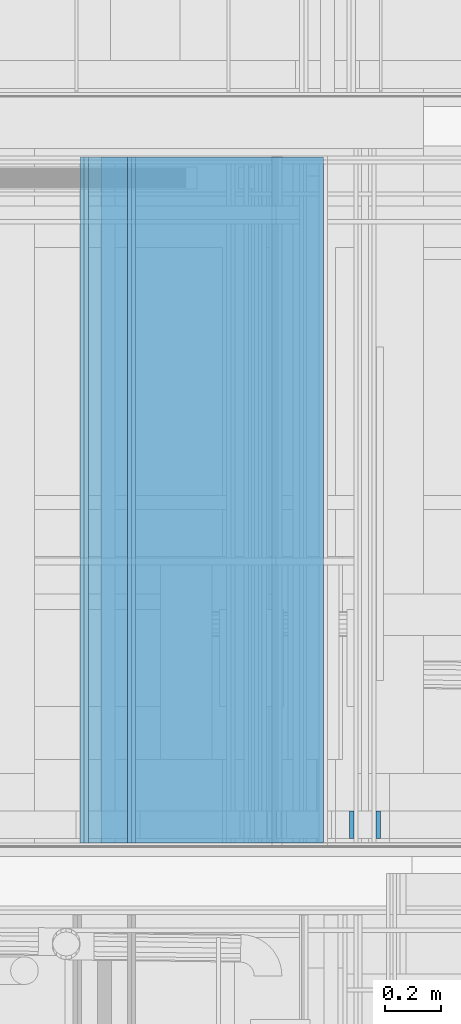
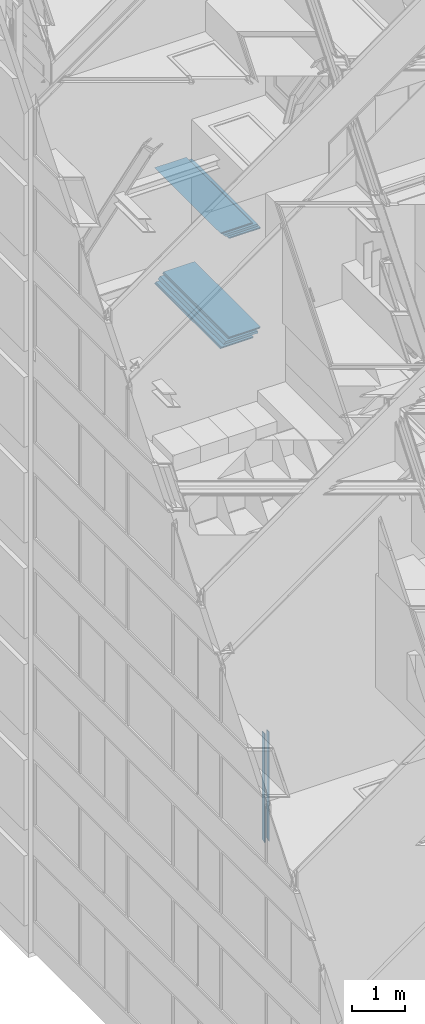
# One storey, part 141 of 583: 12 building element parts, 3 elements without a shape of their own.
"""IFC2X3 building model written with IfcOpenShell, lengths in metres."""

from ifc_helpers import new_model, entity, si_unit, converted_unit, derived_unit, money_unit, direction, frame, frame_2d, origin_with_axes, place, context, subcontext, project, spatial, polyline, rectangle, outline, extrude, clip, halfspace, material, type_object, element, aggregate, save


model = new_model("IFC2X3")

# Units and contexts
model_context = context("Model", 3, precision=1e-05, world=origin_with_axes(), true_north=direction((0.0, 1.0)))
body_context = subcontext(model_context, "Body", "Model", "MODEL_VIEW", scale=1.0)
ifc_project = project(units=[si_unit("LENGTHUNIT", "METRE"), si_unit("AREAUNIT", "SQUARE_METRE"), si_unit("VOLUMEUNIT", "CUBIC_METRE"), si_unit("ABSORBEDDOSEUNIT", "GRAY"), si_unit("AMOUNTOFSUBSTANCEUNIT", "MOLE"), si_unit("DOSEEQUIVALENTUNIT", "SIEVERT"), si_unit("ELECTRICCAPACITANCEUNIT", "FARAD"), si_unit("ELECTRICCHARGEUNIT", "COULOMB"), si_unit("ELECTRICCONDUCTANCEUNIT", "SIEMENS"), si_unit("ELECTRICCURRENTUNIT", "AMPERE"), si_unit("ELECTRICRESISTANCEUNIT", "OHM"), si_unit("ELECTRICVOLTAGEUNIT", "VOLT"), si_unit("ENERGYUNIT", "JOULE"), si_unit("FORCEUNIT", "NEWTON"), si_unit("FREQUENCYUNIT", "HERTZ"), si_unit("ILLUMINANCEUNIT", "LUX"), si_unit("INDUCTANCEUNIT", "HENRY"), si_unit("LUMINOUSFLUXUNIT", "LUMEN"), si_unit("LUMINOUSINTENSITYUNIT", "CANDELA"), si_unit("MAGNETICFLUXDENSITYUNIT", "TESLA"), si_unit("MAGNETICFLUXUNIT", "WEBER"), si_unit("MASSUNIT", "GRAM"), converted_unit("PLANEANGLEUNIT", "degree", entity("IfcReal", 0.0174532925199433), si_unit("PLANEANGLEUNIT", "RADIAN"), dimensions=[0, 0, 0, 0, 0, 0, 0]), si_unit("POWERUNIT", "WATT"), si_unit("PRESSUREUNIT", "PASCAL"), si_unit("RADIOACTIVITYUNIT", "BECQUEREL"), si_unit("SOLIDANGLEUNIT", "STERADIAN"), si_unit("THERMODYNAMICTEMPERATUREUNIT", "KELVIN"), si_unit("TIMEUNIT", "SECOND"), derived_unit("ACCELERATIONUNIT", [(si_unit("LENGTHUNIT", "METRE"), 1), (si_unit("TIMEUNIT", "SECOND"), -2)]), derived_unit("ANGULARVELOCITYUNIT", [(converted_unit("PLANEANGLEUNIT", "degree", entity("IfcReal", 0.0174532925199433), si_unit("PLANEANGLEUNIT", "RADIAN"), dimensions=[0, 0, 0, 0, 0, 0, 0]), 1), (si_unit("TIMEUNIT", "SECOND"), -1)]), derived_unit("CURVATUREUNIT", [(converted_unit("PLANEANGLEUNIT", "degree", entity("IfcReal", 0.0174532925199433), si_unit("PLANEANGLEUNIT", "RADIAN"), dimensions=[0, 0, 0, 0, 0, 0, 0]), 1), (si_unit("LENGTHUNIT", "METRE"), -1)]), derived_unit("DYNAMICVISCOSITYUNIT", [(si_unit("PRESSUREUNIT", "PASCAL"), 1), (si_unit("TIMEUNIT", "SECOND"), 1)]), derived_unit("HEATFLUXDENSITYUNIT", [(si_unit("POWERUNIT", "WATT"), 1), (si_unit("LENGTHUNIT", "METRE"), -2)]), derived_unit("HEATINGVALUEUNIT", [(si_unit("ENERGYUNIT", "JOULE"), 1), (si_unit("MASSUNIT", "GRAM"), -1)]), derived_unit("INTEGERCOUNTRATEUNIT", [(si_unit("TIMEUNIT", "SECOND"), -1)]), derived_unit("IONCONCENTRATIONUNIT", [(si_unit("MASSUNIT", "GRAM"), 1), (si_unit("VOLUMEUNIT", "CUBIC_METRE"), -1)]), derived_unit("ISOTHERMALMOISTURECAPACITYUNIT", [(si_unit("VOLUMEUNIT", "CUBIC_METRE"), 1), (si_unit("MASSUNIT", "GRAM"), -1)]), derived_unit("KINEMATICVISCOSITYUNIT", [(si_unit("AREAUNIT", "SQUARE_METRE"), 1), (si_unit("TIMEUNIT", "SECOND"), -1)]), derived_unit("LINEARFORCEUNIT", [(si_unit("FORCEUNIT", "NEWTON"), 1), (si_unit("LENGTHUNIT", "METRE"), -1)]), derived_unit("LINEARMOMENTUNIT", [(si_unit("FORCEUNIT", "NEWTON"), 1), (si_unit("LENGTHUNIT", "METRE"), -1)]), derived_unit("LINEARSTIFFNESSUNIT", [(si_unit("FORCEUNIT", "NEWTON"), 1), (si_unit("LENGTHUNIT", "METRE"), -1)]), derived_unit("LINEARVELOCITYUNIT", [(si_unit("LENGTHUNIT", "METRE"), 1), (si_unit("TIMEUNIT", "SECOND"), -1)]), derived_unit("LUMINOUSINTENSITYDISTRIBUTIONUNIT", [(si_unit("LUMINOUSINTENSITYUNIT", "CANDELA"), 1), (si_unit("LUMINOUSFLUXUNIT", "LUMEN"), -1)]), derived_unit("MASSDENSITYUNIT", [(si_unit("MASSUNIT", "GRAM"), 1), (si_unit("VOLUMEUNIT", "CUBIC_METRE"), -1)]), derived_unit("MASSFLOWRATEUNIT", [(si_unit("MASSUNIT", "GRAM"), 1), (si_unit("TIMEUNIT", "SECOND"), -1)]), derived_unit("MASSPERLENGTHUNIT", [(si_unit("MASSUNIT", "GRAM"), 1), (si_unit("LENGTHUNIT", "METRE"), -1)]), derived_unit("MODULUSOFELASTICITYUNIT", [(si_unit("FORCEUNIT", "NEWTON"), 1), (si_unit("AREAUNIT", "SQUARE_METRE"), -1)]), derived_unit("MODULUSOFLINEARSUBGRADEREACTIONUNIT", [(si_unit("FORCEUNIT", "NEWTON"), 1), (si_unit("LENGTHUNIT", "METRE"), -2)]), derived_unit("MODULUSOFROTATIONALSUBGRADEREACTIONUNIT", [(si_unit("FORCEUNIT", "NEWTON"), 1), (si_unit("LENGTHUNIT", "METRE"), 1)]), derived_unit("MODULUSOFSUBGRADEREACTIONUNIT", [(si_unit("FORCEUNIT", "NEWTON"), 1), (si_unit("VOLUMEUNIT", "CUBIC_METRE"), -1)]), derived_unit("MOISTUREDIFFUSIVITYUNIT", [(si_unit("VOLUMEUNIT", "CUBIC_METRE"), 1), (si_unit("TIMEUNIT", "SECOND"), -1)]), derived_unit("MOLECULARWEIGHTUNIT", [(si_unit("MASSUNIT", "GRAM"), 1), (si_unit("AMOUNTOFSUBSTANCEUNIT", "MOLE"), -1)]), derived_unit("PLANARFORCEUNIT", [(si_unit("FORCEUNIT", "NEWTON"), 1), (si_unit("LENGTHUNIT", "METRE"), -2)]), derived_unit("ROTATIONALFREQUENCYUNIT", [(si_unit("TIMEUNIT", "SECOND"), -1)]), derived_unit("ROTATIONALMASSUNIT", [(si_unit("MASSUNIT", "GRAM"), 1), (si_unit("LENGTHUNIT", "METRE"), 2)]), derived_unit("ROTATIONALSTIFFNESSUNIT", [(si_unit("FORCEUNIT", "NEWTON"), 1), (si_unit("LENGTHUNIT", "METRE"), 1), (converted_unit("PLANEANGLEUNIT", "degree", entity("IfcReal", 0.0174532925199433), si_unit("PLANEANGLEUNIT", "RADIAN"), dimensions=[0, 0, 0, 0, 0, 0, 0]), -1)]), derived_unit("SECTIONAREAINTEGRALUNIT", [(si_unit("LENGTHUNIT", "METRE"), 5)]), derived_unit("SECTIONMODULUSUNIT", [(si_unit("LENGTHUNIT", "METRE"), 3)]), derived_unit("SHEARMODULUSUNIT", [(si_unit("FORCEUNIT", "NEWTON"), 1), (si_unit("AREAUNIT", "SQUARE_METRE"), -1)]), derived_unit("SOUNDPOWERUNIT", [(si_unit("ENERGYUNIT", "JOULE"), 1), (si_unit("TIMEUNIT", "SECOND"), -1)]), derived_unit("SPECIFICHEATCAPACITYUNIT", [(si_unit("FORCEUNIT", "NEWTON"), 1), (si_unit("MASSUNIT", "GRAM"), -1), (si_unit("THERMODYNAMICTEMPERATUREUNIT", "KELVIN"), -1)]), derived_unit("TEMPERATUREGRADIENTUNIT", [(si_unit("THERMODYNAMICTEMPERATUREUNIT", "KELVIN"), 1), (si_unit("LENGTHUNIT", "METRE"), -1)]), derived_unit("THERMALADMITTANCEUNIT", [(si_unit("POWERUNIT", "WATT"), 1), (si_unit("AREAUNIT", "SQUARE_METRE"), -1), (si_unit("THERMODYNAMICTEMPERATUREUNIT", "KELVIN"), -1)]), derived_unit("THERMALCONDUCTANCEUNIT", [(si_unit("POWERUNIT", "WATT"), 1), (si_unit("LENGTHUNIT", "METRE"), -1), (si_unit("THERMODYNAMICTEMPERATUREUNIT", "KELVIN"), -1)]), derived_unit("THERMALEXPANSIONCOEFFICIENTUNIT", [(si_unit("THERMODYNAMICTEMPERATUREUNIT", "KELVIN"), -1)]), derived_unit("THERMALRESISTANCEUNIT", [(si_unit("AREAUNIT", "SQUARE_METRE"), 1), (si_unit("POWERUNIT", "WATT"), -1)]), derived_unit("THERMALTRANSMITTANCEUNIT", [(si_unit("POWERUNIT", "WATT"), 1), (si_unit("AREAUNIT", "SQUARE_METRE"), -1), (si_unit("THERMODYNAMICTEMPERATUREUNIT", "KELVIN"), -1)]), derived_unit("TORQUEUNIT", [(si_unit("FORCEUNIT", "NEWTON"), 1), (si_unit("LENGTHUNIT", "METRE"), 1)]), derived_unit("VAPORPERMEABILITYUNIT", [(si_unit("MASSUNIT", "GRAM"), 1), (si_unit("TIMEUNIT", "SECOND"), -1)]), derived_unit("VOLUMETRICFLOWRATEUNIT", [(si_unit("VOLUMEUNIT", "CUBIC_METRE"), 1), (si_unit("TIMEUNIT", "SECOND"), -1)]), derived_unit("WARPINGCONSTANTUNIT", [(si_unit("LENGTHUNIT", "METRE"), 6)]), derived_unit("WARPINGMOMENTUNIT", [(si_unit("FORCEUNIT", "NEWTON"), 1), (si_unit("LENGTHUNIT", "METRE"), 2)]), money_unit("GBP")], contexts=[model_context])

# Site, building, storey
site_placement = place(None, origin_with_axes())
site = spatial("IfcSite", under=ifc_project, at=site_placement, Name="Site", CompositionType="ELEMENT")
building_placement = place(site_placement, origin_with_axes())
building = spatial("IfcBuilding", under=site, at=building_placement, Name="Building01", CompositionType="ELEMENT")
storey_placement = place(building_placement, frame((0.0, 0.0, 20.78), z_axis=(0.0, 0.0, 1.0), x_axis=(1.0, 0.0, 0.0)))
storey = spatial("IfcBuildingStorey", under=building, at=storey_placement, Name="RL", CompositionType="ELEMENT", Elevation=20.78)

# Wall, building element parts
wall_type_1 = type_object("IfcWallType", Name="SHE_A-Walls_Type01d_Partywall_200mm_twin", PredefinedType="NOTDEFINED")
wall_1_placement = place(storey_placement, frame((5.005, 14.98, -8.53), z_axis=(0.0, 1.0, 0.0), x_axis=(-1.0, 0.0, 0.0)))
wall_1 = element("IfcWall", 1, at=wall_1_placement, inside=storey, type_object=wall_type_1, Name="1D", ObjectType="SHE_A-Walls_Type01d_Partywall_200mm_twin")
ifc_material_1 = material(Name="A_BSUK_Insulation")
placement_1 = place(wall_1_placement, origin_with_axes())
building_element_part_1 = element("IfcBuildingElementPart", 2, at=placement_1, material=ifc_material_1, Name="1", context=body_context, shape_type="SweptSolid", body=[
    extrude(outline(polyline([(0.690572, 0.05), (0.0, 0.05), (0.0, 0.0), (0.740572, 0.0), (0.690572, 0.05)])), origin_with_axes(), (0.0, 0.0, 1.0), 2.468),
])
ifc_material_2 = material(Name="A_BSUK_WallInternal_Finishes_Plasterboard")
building_element_part_2 = element("IfcBuildingElementPart", 3, at=placement_1, material=ifc_material_2, Name="3", context=body_context, shape_type="SweptSolid", body=[
    extrude(outline(polyline([(0.615572, 0.125), (-0.06, 0.125), (-0.06, 0.11), (0.630572, 0.11), (0.615572, 0.125)])), origin_with_axes(), (0.0, 0.0, 1.0), 2.468),
])
building_element_part_3 = element("IfcBuildingElementPart", 4, at=placement_1, material=ifc_material_2, Name="4", context=body_context, shape_type="SweptSolid", body=[
    extrude(outline(polyline([(0.630572, 0.11), (-0.045, 0.11), (-0.045, 0.095), (0.645572, 0.095), (0.630572, 0.11)])), origin_with_axes(), (0.0, 0.0, 1.0), 2.468),
])
building_element_part_4 = element("IfcBuildingElementPart", 5, at=placement_1, material=ifc_material_2, Name="5", context=body_context, shape_type="SweptSolid", body=[
    extrude(outline(polyline([(0.785572, -0.045), (0.095, -0.045), (0.095, -0.06), (0.800572, -0.06), (0.785572, -0.045)])), origin_with_axes(), (0.0, 0.0, 1.0), 2.468),
])
building_element_part_5 = element("IfcBuildingElementPart", 6, at=placement_1, material=ifc_material_2, Name="6", context=body_context, shape_type="SweptSolid", body=[
    extrude(outline(polyline([(0.800572, -0.06), (0.11, -0.06), (0.11, -0.075), (0.815572, -0.075), (0.800572, -0.06)])), origin_with_axes(), (0.0, 0.0, 1.0), 2.468),
])
aggregate(wall_1, [building_element_part_1, building_element_part_2, building_element_part_3, building_element_part_4, building_element_part_5])

wall_2_placement = place(storey_placement, frame((5.005, 14.98, -6.08), z_axis=(0.0, 1.0, 0.0), x_axis=(-1.0, 0.0, 0.0)))
wall_2 = element("IfcWall", 7, at=wall_2_placement, inside=storey, type_object=wall_type_1, Name="1D", ObjectType="SHE_A-Walls_Type01d_Partywall_200mm_twin")
placement_2 = place(wall_2_placement, origin_with_axes())
building_element_part_6 = element("IfcBuildingElementPart", 8, at=placement_2, material=ifc_material_1, Name="1", context=body_context, shape_type="SweptSolid", body=[
    extrude(outline(polyline([(0.740572, 0.05), (0.0, 0.05), (0.0, 0.0), (0.690572, 0.0), (0.740572, 0.05)])), origin_with_axes(), (0.0, 0.0, 1.0), 2.468),
])
building_element_part_7 = element("IfcBuildingElementPart", 9, at=placement_2, material=ifc_material_2, Name="3", context=body_context, shape_type="SweptSolid", body=[
    extrude(outline(polyline([(0.815572, 0.125), (0.125, 0.125), (0.125, 0.11), (0.800572, 0.11), (0.815572, 0.125)])), origin_with_axes(), (0.0, 0.0, 1.0), 2.468),
])
building_element_part_8 = element("IfcBuildingElementPart", 10, at=placement_2, material=ifc_material_2, Name="4", context=body_context, shape_type="SweptSolid", body=[
    extrude(outline(polyline([(0.800572, 0.11), (0.11, 0.11), (0.11, 0.095), (0.785572, 0.095), (0.800572, 0.11)])), origin_with_axes(), (0.0, 0.0, 1.0), 2.468),
])
building_element_part_9 = element("IfcBuildingElementPart", 11, at=placement_2, material=ifc_material_2, Name="5", context=body_context, shape_type="SweptSolid", body=[
    extrude(outline(polyline([(0.645572, -0.045), (-0.06, -0.045), (-0.06, -0.06), (0.630572, -0.06), (0.645572, -0.045)])), origin_with_axes(), (0.0, 0.0, 1.0), 2.468),
])
building_element_part_10 = element("IfcBuildingElementPart", 12, at=placement_2, material=ifc_material_2, Name="6", context=body_context, shape_type="SweptSolid", body=[
    extrude(outline(polyline([(0.630572, -0.06), (-0.06, -0.06), (-0.06, -0.075), (0.615572, -0.075), (0.630572, -0.06)])), origin_with_axes(), (0.0, 0.0, 1.0), 2.468),
])
aggregate(wall_2, [building_element_part_6, building_element_part_7, building_element_part_8, building_element_part_9, building_element_part_10])

wall_type_2 = type_object("IfcWallType", Name="SHE_A-Walls_Type05b_Partition_80mm", PredefinedType="NOTDEFINED")
wall_3_placement = place(storey_placement, frame((5.227976, 14.98, -17.713024), z_axis=(0.0, 1.0, 0.0), x_axis=(0.0, 0.0, -1.0)))
wall_3 = element("IfcWall", 13, at=wall_3_placement, inside=storey, type_object=wall_type_2, Name="5B", ObjectType="SHE_A-Walls_Type05b_Partition_80mm")
ifc_material_3 = material(Name="A_BSUK_Walls_Timber")
placement_3 = place(wall_3_placement, origin_with_axes())
building_element_part_11 = element("IfcBuildingElementPart", 14, at=placement_3, material=ifc_material_3, Name="2", context=body_context, shape_type="Clipping", body=[
    clip(extrude(rectangle(XDim=2.496245, YDim=0.015, at=frame_2d((1.290123, 0.0605), x_axis=(-1.0, 0.0))), frame((0.0, 0.0, 0.015), z_axis=(0.0, 0.0, 1.0), x_axis=(1.0, 0.0, 0.0)), (0.0, 0.0, 1.0), 0.1), halfspace(frame((2.300273, 0.0, 0.747404), z_axis=(-0.95105652, 0.0, -0.30901699), x_axis=(0.0, -1.0, 0.0)), True)),
])
building_element_part_12 = element("IfcBuildingElementPart", 15, at=placement_3, material=ifc_material_3, Name="5", context=body_context, shape_type="Clipping", body=[
    clip(extrude(rectangle(XDim=2.496245, YDim=0.015, at=frame_2d((1.290123, -0.0345), x_axis=(-1.0, 0.0))), frame((0.0, 0.0, 0.015), z_axis=(0.0, 0.0, 1.0), x_axis=(1.0, 0.0, 0.0)), (0.0, 0.0, 1.0), 0.1), halfspace(frame((2.300273, 0.0, 0.747404), z_axis=(-0.95105652, 0.0, -0.30901699), x_axis=(0.0, -1.0, 0.0)), True)),
])
aggregate(wall_3, [building_element_part_11, building_element_part_12])

save(model, "model.ifc")
